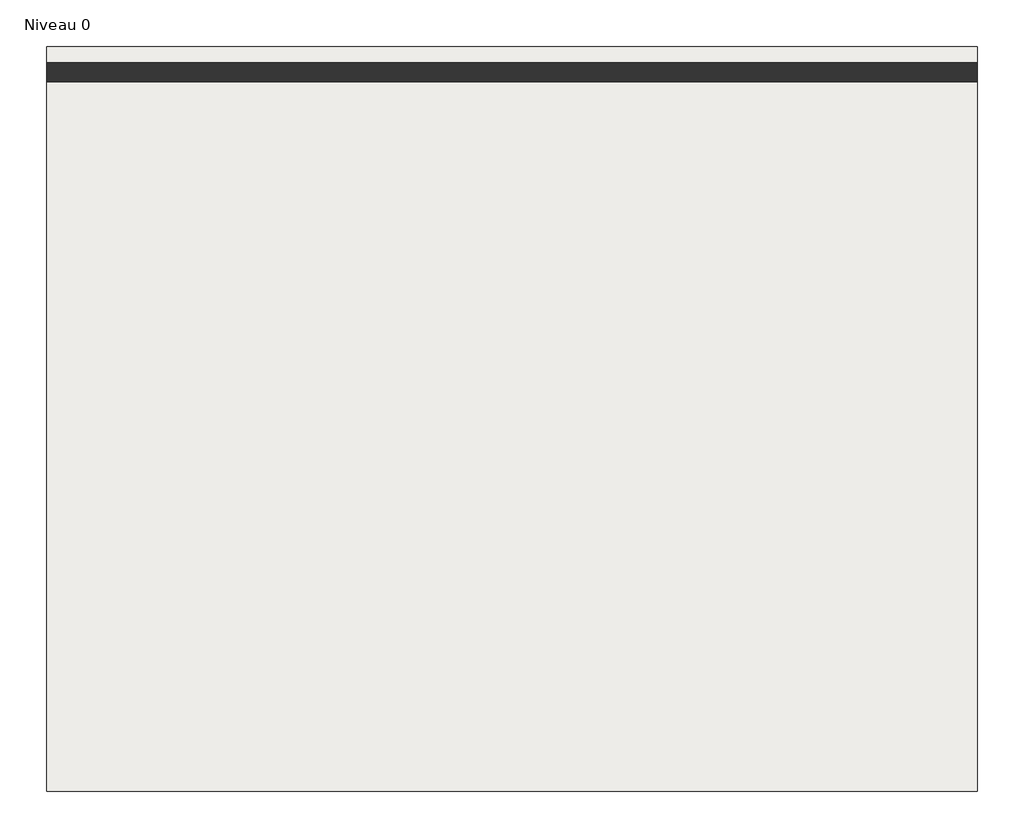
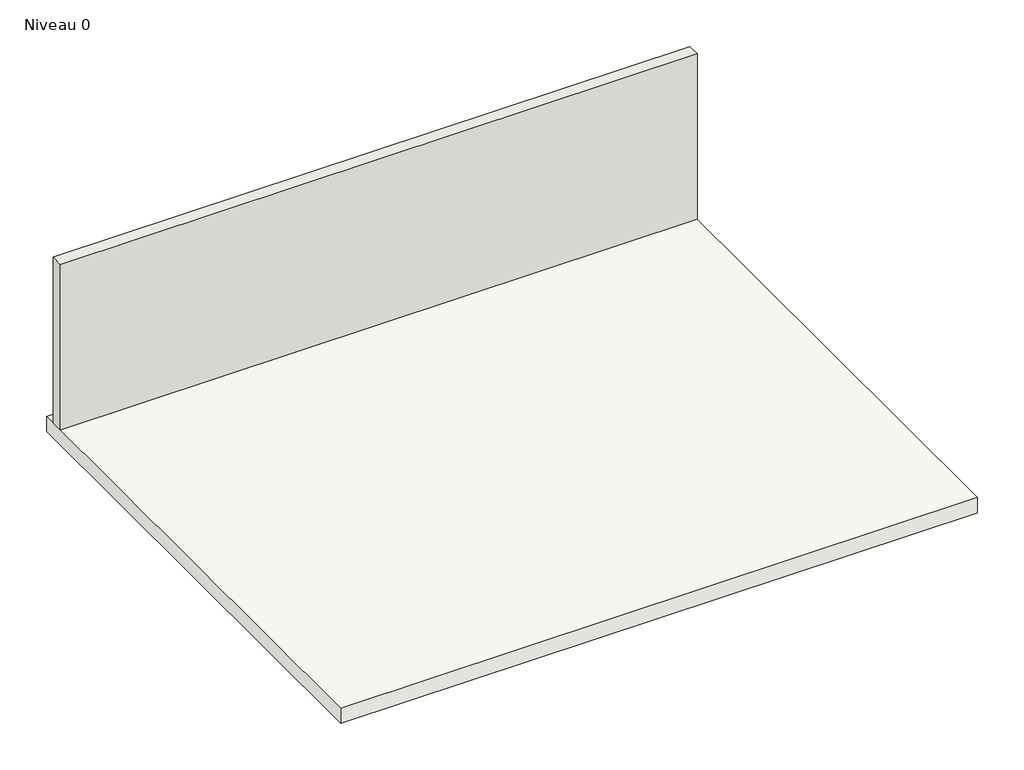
# One storey: 1 slab, 1 wall.
"""IFC4 building model written with IfcOpenShell, lengths in millimetres."""

import ifcopenshell
import ifcopenshell.guid

model = None  # the IFC model being written
_history = None  # IfcOwnerHistory: only IFC2X3 demands one
_inside = {}  # id of a spatial element -> (the spatial element, [elements in it])
_under = {}  # id of a project, library or spatial element -> (it, [spatial elements below it])
_declared = {}  # id of a project -> (the project, [libraries it declares])
_typed = {}  # id of a type object -> (the type object, [elements of that type])
_made_of = {}  # id of a material, layer set ... -> (it, [elements and type objects made of it])


def new_model(schema):
    """Start an empty IFC model of exactly this schema.

    Asked for "IFC4X3", IfcOpenShell would pick the latest addendum, in which some entities
    have other attributes; the version numbers below select the first issue.
    IFC2X3 requires an IfcOwnerHistory on every rooted entity: one is made here for all.
    """
    global model, _history
    if schema == "IFC4X3":
        model = ifcopenshell.file(schema_version=(4, 3, 0, 0))
    else:
        model = ifcopenshell.file(schema=schema)
    _inside.clear()
    _under.clear()
    _declared.clear()
    _typed.clear()
    _made_of.clear()
    _history = None
    if model.schema == "IFC2X3":
        org = make("IfcOrganization", Name="unknown")
        user = make(
            "IfcPersonAndOrganization",
            ThePerson=make("IfcPerson", FamilyName="unknown"),
            TheOrganization=org,
        )
        app = make(
            "IfcApplication",
            ApplicationDeveloper=org,
            Version="unknown",
            ApplicationFullName="unknown",
            ApplicationIdentifier="unknown",
        )
        _history = make(
            "IfcOwnerHistory",
            OwningUser=user,
            OwningApplication=app,
            ChangeAction="ADDED",
            CreationDate=0,
        )
    return model


def make(cls, **values):
    """One entity of the class cls with the attributes given. An attribute that is None is left unset."""
    return model.create_entity(
        cls, **{name: value for name, value in values.items() if value is not None}
    )


def rooted(cls, **values):
    """An entity with a GlobalId (a new one), such as an element, a storey or a relation."""
    return make(cls, GlobalId=ifcopenshell.guid.new(), OwnerHistory=_history, **values)


def si_unit(unit_type, name, prefix=None):
    """IfcSIUnit, for example si_unit("LENGTHUNIT", "METRE", prefix="MILLI")."""
    return make("IfcSIUnit", UnitType=unit_type, Prefix=prefix, Name=name)


def assignment(units):
    """IfcUnitAssignment: the units of a project."""
    return None if units is None else make("IfcUnitAssignment", Units=units)


def point(xyz):
    """IfcCartesianPoint."""
    return None if xyz is None else make("IfcCartesianPoint", Coordinates=xyz)


def direction(xyz):
    """IfcDirection."""
    return None if xyz is None else make("IfcDirection", DirectionRatios=xyz)


def frame(location, z_axis=None, x_axis=None):
    """IfcAxis2Placement3D, a coordinate frame: its origin and axes. An axis left out is left unset."""
    return make(
        "IfcAxis2Placement3D",
        Location=point(location),
        Axis=direction(z_axis),
        RefDirection=direction(x_axis),
    )


def origin():
    """The frame at (0, 0, 0) with its axes left unset."""
    return frame((0.0, 0.0, 0.0))


def origin_with_axes():
    """The frame at (0, 0, 0) with the z axis (0, 0, 1) and the x axis (1, 0, 0) written out."""
    return frame((0.0, 0.0, 0.0), z_axis=(0.0, 0.0, 1.0), x_axis=(1.0, 0.0, 0.0))


def place(relative_to, where):
    """IfcLocalPlacement: puts the frame where relative to a parent placement (None: the world)."""
    return make(
        "IfcLocalPlacement", PlacementRelTo=relative_to, RelativePlacement=where
    )


def context(
    kind, dimensions, precision=None, world=None, true_north=None, identifier=None
):
    """IfcGeometricRepresentationContext, for example the 3D "Model" context."""
    return make(
        "IfcGeometricRepresentationContext",
        ContextIdentifier=identifier,
        ContextType=kind,
        CoordinateSpaceDimension=dimensions,
        Precision=precision,
        WorldCoordinateSystem=world,
        TrueNorth=true_north,
    )


def project(units=None, contexts=None):
    """IfcProject with its units and contexts."""
    return rooted(
        "IfcProject",
        Name="project",
        RepresentationContexts=contexts,
        UnitsInContext=assignment(units),
    )


def spatial(cls, under=None, at=None, **own):
    """A site, building, storey or space (cls), placed at a placement, below another one or the project."""
    s = rooted(cls, ObjectPlacement=at, **own)
    if under is not None:
        _under.setdefault(under.id(), (under, []))[1].append(s)
    return s


def polyline(points):
    """IfcPolyline through the points."""
    return make("IfcPolyline", Points=[point(p) for p in points])


def outline(outer, holes=None, kind="AREA"):
    """IfcArbitraryClosedProfileDef: a profile drawn as a closed curve; with holes, ...WithVoids."""
    if holes is None:
        return make("IfcArbitraryClosedProfileDef", ProfileType=kind, OuterCurve=outer)
    return make(
        "IfcArbitraryProfileDefWithVoids",
        ProfileType=kind,
        OuterCurve=outer,
        InnerCurves=holes,
    )


def extrude(swept, where, along, depth):
    """IfcExtrudedAreaSolid: the profile swept, set in the frame where, extruded along a direction by depth."""
    return make(
        "IfcExtrudedAreaSolid",
        SweptArea=swept,
        Position=where,
        ExtrudedDirection=direction(along),
        Depth=depth,
    )


def shape(context_of_items, identifier, shape_type, items):
    """IfcShapeRepresentation: the items that make up one representation, for example the "Body"."""
    return make(
        "IfcShapeRepresentation",
        ContextOfItems=context_of_items,
        RepresentationIdentifier=identifier,
        RepresentationType=shape_type,
        Items=items,
    )


def made_of(thing, what):
    """Note that an element or type object is made of a material, layer set ...; save() writes the relation."""
    if what is not None:
        _made_of.setdefault(what.id(), (what, []))[1].append(thing)
    return thing


def element(
    cls,
    number,
    at=None,
    inside=None,
    cuts=None,
    type_object=None,
    material=None,
    context=None,
    identifier="Body",
    shape_type=None,
    held_by="IfcProductDefinitionShape",
    body=None,
    shapes=None,
    **own,
):
    """One element of the class cls, such as IfcWall. Its Tag is "e" and its number.

    at: its placement. inside: the storey or other place that contains it. cuts: it is an
    opening in that element (IfcRelVoidsElement). A single representation is given by context,
    identifier, shape_type and body (its items); several are given by shapes. held_by: the class
    of the entity that holds the representations. save() writes the other relations.
    """
    e = rooted(cls, Tag="e%d" % number, ObjectPlacement=at, **own)
    if body is not None:
        shapes = [shape(context, identifier, shape_type, body)]
    if shapes is not None:
        e.Representation = make(held_by, Representations=shapes)
    if inside is not None:
        _inside.setdefault(inside.id(), (inside, []))[1].append(e)
    if cuts is not None:
        rooted(
            "IfcRelVoidsElement", RelatingBuildingElement=cuts, RelatedOpeningElement=e
        )
    if type_object is not None:
        _typed.setdefault(type_object.id(), (type_object, []))[1].append(e)
    return made_of(e, material)


def aggregate(whole, parts):
    """IfcRelAggregates: a whole, such as a stair, and the parts it consists of."""
    return rooted("IfcRelAggregates", RelatingObject=whole, RelatedObjects=parts)


def save(model, path):
    """Write the relations noted so far, then the file.

    IfcRelAggregates (storeys below a building ...), IfcRelContainedInSpatialStructure (elements
    in a storey), IfcRelDefinesByType, IfcRelAssociatesMaterial and IfcRelDeclares: one each for
    every whole, place, type object, material and project.
    """
    for whole, parts in _under.values():
        aggregate(whole, parts)
    for where, things in _inside.values():
        rooted(
            "IfcRelContainedInSpatialStructure",
            RelatedElements=things,
            RelatingStructure=where,
        )
    for kind, things in _typed.values():
        rooted("IfcRelDefinesByType", RelatedObjects=things, RelatingType=kind)
    for what, things in _made_of.values():
        rooted("IfcRelAssociatesMaterial", RelatedObjects=things, RelatingMaterial=what)
    for by, libraries in _declared.values():
        rooted("IfcRelDeclares", RelatingContext=by, RelatedDefinitions=libraries)
    model.write(path)


model = new_model("IFC4")

# Units and contexts
model_context = context("Model", 3, world=origin())
ifc_project = project(units=[si_unit("LENGTHUNIT", "METRE", prefix="MILLI")], contexts=[model_context])

# Site, building, storey
site = spatial("IfcSite", under=ifc_project)
building = spatial("IfcBuilding", under=site)
storey = spatial("IfcBuildingStorey", under=building, Name="Niveau 0", Elevation=0.0)

# Slab
placement = place(None, origin())
element("IfcSlab", 1, ObjectType="Dalle en béton - 250 mm", at=placement, inside=storey, context=model_context, shape_type="SweptSolid", body=[
    extrude(outline(polyline([(-953.5252559, -2798.0343488), (-10953.5252559, -2798.0343488), (-10953.5252559, 5201.9656512), (-953.5252559, 5201.9656512), (-953.5252559, -2798.0343488)])), frame((0.0, 0.0, -250.0), z_axis=(0.0, 0.0, 1.0), x_axis=(1.0, 0.0, 0.0)), (0.0, 0.0, 1.0), 250.0),
])

# Wall
element("IfcWall", 2, ObjectType="Ext. Voile BA 20", at=placement, inside=storey, context=model_context, shape_type="SweptSolid", body=[
    extrude(outline(polyline([(-10953.5252559, 5025.8290531), (-953.5252559, 5025.8290531), (-953.5252559, 4825.8290531), (-10953.5252559, 4825.8290531), (-10953.5252559, 5025.8290531)])), origin_with_axes(), (0.0, 0.0, 1.0), 2750.0),
])

save(model, "model.ifc")
